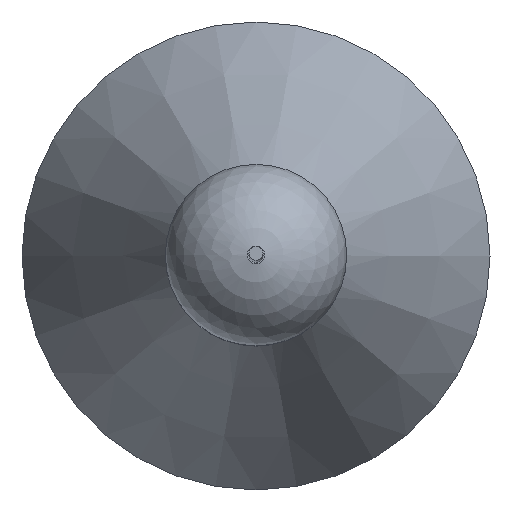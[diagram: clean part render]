
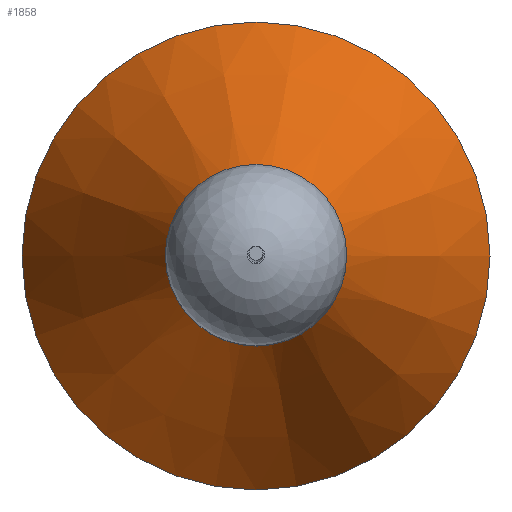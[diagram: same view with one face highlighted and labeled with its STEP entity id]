
A CAD part, top view. The second image highlights one B-rep face of the part: STEP entity #1858.
In plain terms, the highlighted conical face has half-angle 25.873 degrees and reference radius 51.562 mm.
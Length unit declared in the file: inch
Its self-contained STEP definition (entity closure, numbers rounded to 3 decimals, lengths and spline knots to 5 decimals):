
#27=CONICAL_SURFACE('',#2068,2.03,0.452);
#265=LINE('',#3281,#438);
#438=VECTOR('',#2584,2.03);
#598=FACE_OUTER_BOUND('',#703,.T.);
#703=EDGE_LOOP('',(#1719,#1720,#1721,#1722));
#761=CIRCLE('',#2066,1.06);
#763=CIRCLE('',#2069,3.);
#951=VERTEX_POINT('',#3273);
#953=VERTEX_POINT('',#3279);
#1208=EDGE_CURVE('',#951,#951,#761,.T.);
#1211=EDGE_CURVE('',#953,#953,#763,.T.);
#1212=EDGE_CURVE('',#953,#951,#265,.T.);
#1719=ORIENTED_EDGE('',*,*,#1211,.F.);
#1720=ORIENTED_EDGE('',*,*,#1212,.T.);
#1721=ORIENTED_EDGE('',*,*,#1208,.T.);
#1722=ORIENTED_EDGE('',*,*,#1212,.F.);
#1858=ADVANCED_FACE('',(#598),#27,.T.);
#2066=AXIS2_PLACEMENT_3D('',#3274,#2575,#2576);
#2068=AXIS2_PLACEMENT_3D('',#3278,#2580,#2581);
#2069=AXIS2_PLACEMENT_3D('',#3280,#2582,#2583);
#2575=DIRECTION('center_axis',(0.,0.,-1.));
#2576=DIRECTION('ref_axis',(1.,0.,0.));
#2580=DIRECTION('center_axis',(0.,0.,-1.));
#2581=DIRECTION('ref_axis',(-1.,0.,0.));
#2582=DIRECTION('center_axis',(0.,0.,-1.));
#2583=DIRECTION('ref_axis',(1.,0.,0.));
#2584=DIRECTION('',(-0.436,0.,0.9));
#3273=CARTESIAN_POINT('',(1.06,0.,4.));
#3274=CARTESIAN_POINT('Origin',(0.,0.,4.));
#3278=CARTESIAN_POINT('Origin',(0.,0.,2.));
#3279=CARTESIAN_POINT('',(3.,0.,0.));
#3280=CARTESIAN_POINT('Origin',(0.,0.,0.));
#3281=CARTESIAN_POINT('',(2.03,0.,2.));
